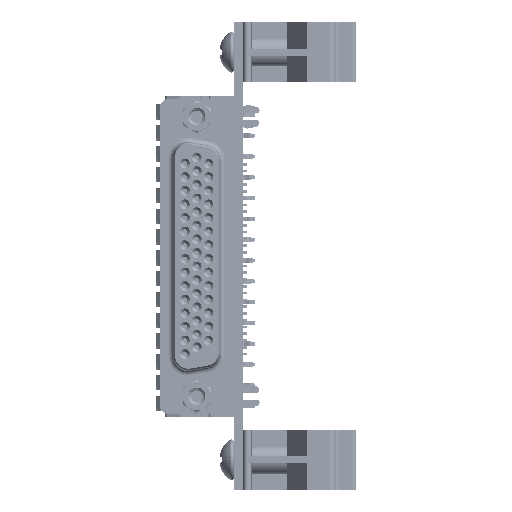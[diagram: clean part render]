
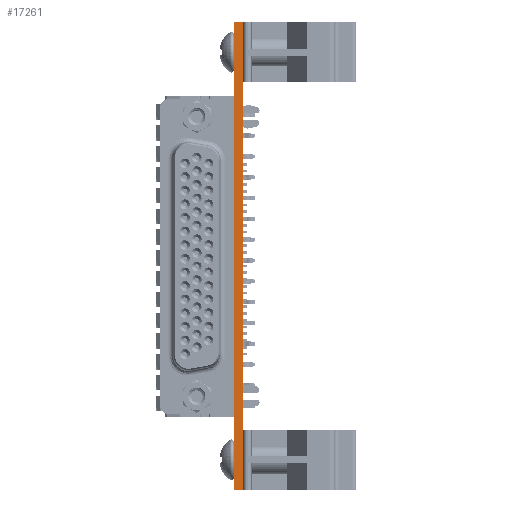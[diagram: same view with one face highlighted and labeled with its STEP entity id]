
A CAD part, left-side view. The second image highlights one B-rep face of the part: STEP entity #17261.
In plain terms, the highlighted planar face has unit normal (-1, 0, 0).
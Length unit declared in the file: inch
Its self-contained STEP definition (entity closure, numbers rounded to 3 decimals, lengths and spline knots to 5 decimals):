
#17261 = ADVANCED_FACE ( 'NONE', ( #18998 ), #127401, .T. ) ;
#17585 = EDGE_CURVE ( 'NONE', #87195, #141350, #313604, .T. ) ;
#18685 = DIRECTION ( 'NONE',  ( 0., 1., 0. ) ) ;
#18998 = FACE_OUTER_BOUND ( 'NONE', #35686, .T. ) ;
#30041 = VECTOR ( 'NONE', #134804, 39.37008 ) ;
#35686 = EDGE_LOOP ( 'NONE', ( #151900, #97361, #179257, #332448 ) ) ;
#56637 = EDGE_CURVE ( 'NONE', #63396, #87195, #144984, .T. ) ;
#63396 = VERTEX_POINT ( 'NONE', #303236 ) ;
#65223 = CARTESIAN_POINT ( 'NONE',  ( 23.185, -0.062, -5.27 ) ) ;
#65923 = EDGE_CURVE ( 'NONE', #353207, #141350, #245824, .T. ) ;
#87195 = VERTEX_POINT ( 'NONE', #65223 ) ;
#97361 = ORIENTED_EDGE ( 'NONE', *, *, #204662, .F. ) ;
#102933 = CARTESIAN_POINT ( 'NONE',  ( 23.185, 0., -5.27 ) ) ;
#127401 = PLANE ( 'NONE',  #197526 ) ;
#128608 = CARTESIAN_POINT ( 'NONE',  ( 23.185, -0.062, -5.27 ) ) ;
#134804 = DIRECTION ( 'NONE',  ( 0., 0., 1. ) ) ;
#141350 = VERTEX_POINT ( 'NONE', #255568 ) ;
#144984 = LINE ( 'NONE', #257717, #303626 ) ;
#150151 = CARTESIAN_POINT ( 'NONE',  ( 23.185, -0.062, -8.37 ) ) ;
#151900 = ORIENTED_EDGE ( 'NONE', *, *, #65923, .F. ) ;
#159343 = DIRECTION ( 'NONE',  ( 0., 0., 1. ) ) ;
#160608 = LINE ( 'NONE', #150151, #174027 ) ;
#174027 = VECTOR ( 'NONE', #343357, 39.37008 ) ;
#179257 = ORIENTED_EDGE ( 'NONE', *, *, #56637, .T. ) ;
#187303 = CARTESIAN_POINT ( 'NONE',  ( 23.185, -0.062, -5.27 ) ) ;
#197526 = AXIS2_PLACEMENT_3D ( 'NONE', #128608, #215919, #159343 ) ;
#204662 = EDGE_CURVE ( 'NONE', #63396, #353207, #160608, .T. ) ;
#209486 = DIRECTION ( 'NONE',  ( 0., 0., 1. ) ) ;
#215919 = DIRECTION ( 'NONE',  ( -1., 0., 0. ) ) ;
#245824 = LINE ( 'NONE', #102933, #30041 ) ;
#255568 = CARTESIAN_POINT ( 'NONE',  ( 23.185, 0., -5.27 ) ) ;
#257717 = CARTESIAN_POINT ( 'NONE',  ( 23.185, -0.062, -5.27 ) ) ;
#303236 = CARTESIAN_POINT ( 'NONE',  ( 23.185, -0.062, -8.37 ) ) ;
#303626 = VECTOR ( 'NONE', #209486, 39.37008 ) ;
#313604 = LINE ( 'NONE', #187303, #331200 ) ;
#331200 = VECTOR ( 'NONE', #18685, 39.37008 ) ;
#332448 = ORIENTED_EDGE ( 'NONE', *, *, #17585, .T. ) ;
#343357 = DIRECTION ( 'NONE',  ( 0., 1., 0. ) ) ;
#353207 = VERTEX_POINT ( 'NONE', #354007 ) ;
#354007 = CARTESIAN_POINT ( 'NONE',  ( 23.185, 0., -8.37 ) ) ;
